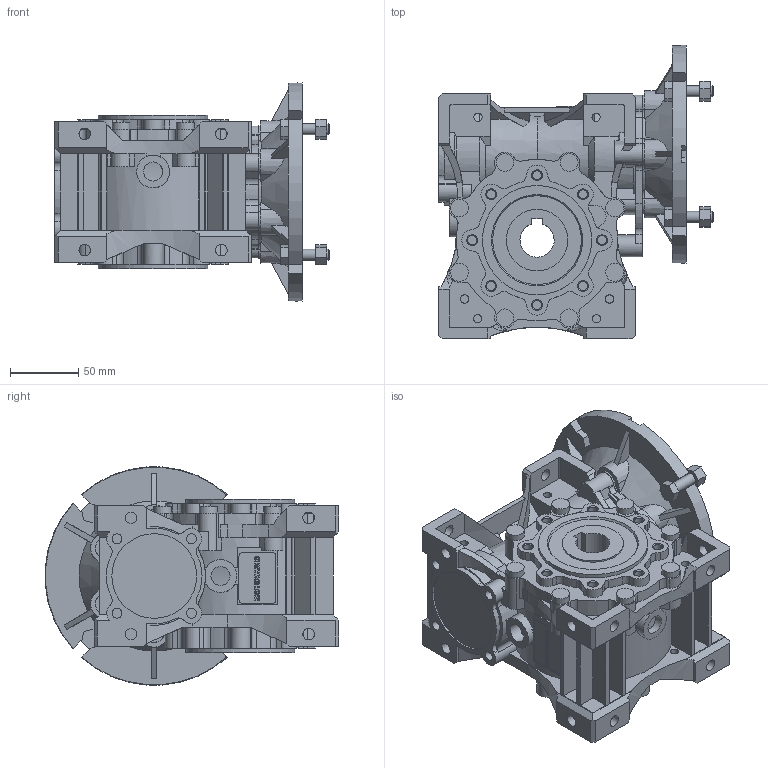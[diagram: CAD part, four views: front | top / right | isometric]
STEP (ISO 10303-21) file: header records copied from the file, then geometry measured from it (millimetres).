
FILE_DESCRIPTION(/* description */ ('STEP AP214'),/* implementation_level */ '2;1');
FILE_NAME(/* name */ 'NMRVP_063_160x14_25_NO_NO_-_-_NO_-_-_-_NO_NO_-_---_---------------',/* time_stamp */ '2025-10-08T12:27:52+02:00',/* author */ ('License CC BY-ND 4.0'),/* organization */ ('CADENAS'),/* preprocessor_version */ 'ST-DEVELOPER v19.3',/* originating_system */ 'PARTsolutions',/* authorisation */ ' ');
FILE_SCHEMA (('AUTOMOTIVE_DESIGN {1 0 10303 214 3 1 1}'));
Length unit declared in the file: millimetre
Products named in the file (6): NMRVP 063 160x14 25 NO NO - - NO - - - NO NO - ---(---------------); W.063.01.M; 063-25 (112); W.063.14.14.M-p; 6371 B5; 63-45
Assembly tree (5 placements, depth 2):
  NMRVP 063 160x14 25 NO NO - - NO - - - NO NO - ---(---------------)
    W.063.01.M
    063-25 (112)
    W.063.14.14.M-p
    6371 B5
    63-45
Bounding box: 201 x 214.74 x 159.74 mm (x, y, z)
Volume: 1913705.1 mm3; surface area: 339879.7 mm2
Topology: 5 solids, 9 shells, 1670 faces, 4536 edges, 2994 vertices
Faces by surface type: plane 998, cylinder 570, cone 100, torus 2
Full cylindrical faces by diameter (mm): 6 x12, 6.647 x16, 7.26 x12, 7.8 x1, 8 x8, 8.5 x14, 13 x8, 14 x3, 24 x1, 27 x1, 35 x1, 37 x1, 44 x1, 45 x3, 62 x3, 68 x2, 80 x2, 110 x1
Entity records: 64244 total; most frequent: CARTESIAN_POINT 10202, DIRECTION 8864, ORIENTED_EDGE 8788, EDGE_CURVE 4394, AXIS2_PLACEMENT_3D 3107, VERTEX_POINT 2970, LINE 2650, VECTOR 2650
